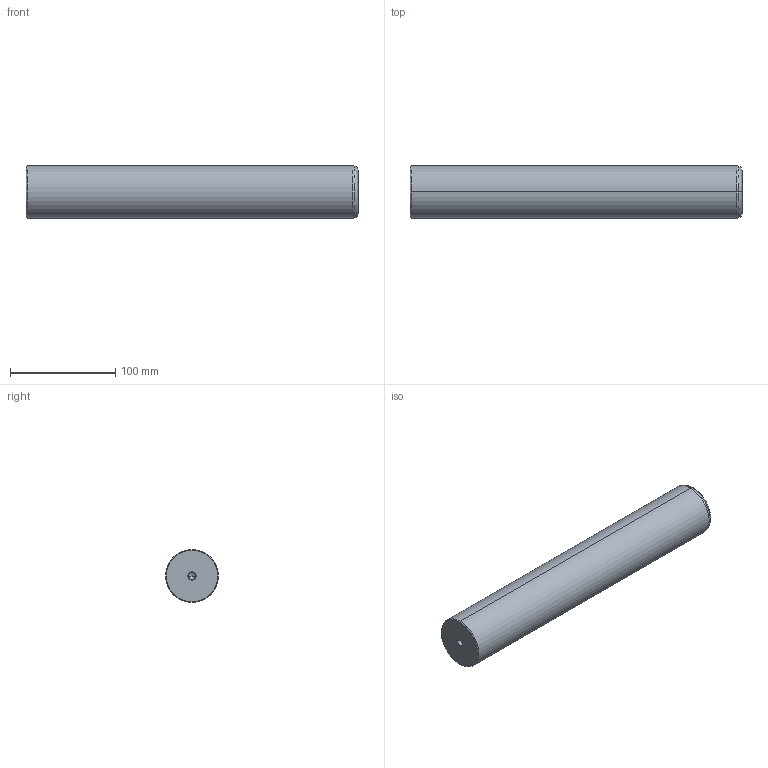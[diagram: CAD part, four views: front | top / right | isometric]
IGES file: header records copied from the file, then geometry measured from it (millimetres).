
Start section: START RECORD GO HERE.
Global section: file name: 720-50x315.igs; native system: DASSAULT SYSTEMES CATIA V5 R20 - www.3ds.com; preprocessor: CATIA Version 5 Release 20 ; author: Utente; organization: NB04-ASUS; date: 20201230.224003; units: millimetre
Bounding box: 315 x 50 x 50 mm (x, y, z)
Surface area: 53999.8 mm2 (no closed solid volume)
Topology: 0 solids, 0 shells, 22 faces, 120 edges, 116 vertices
Faces by surface type: revolution 20, plane 2
